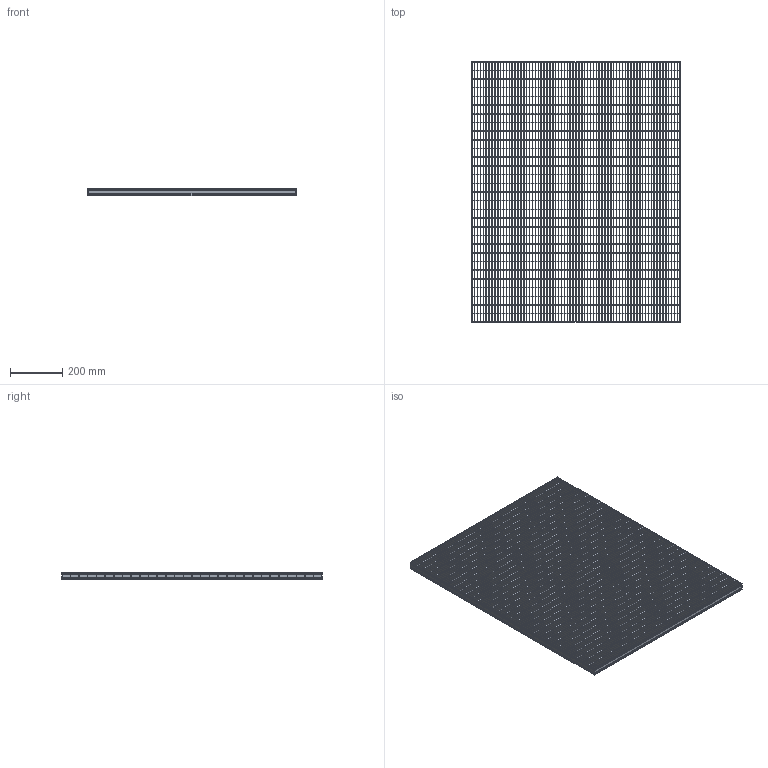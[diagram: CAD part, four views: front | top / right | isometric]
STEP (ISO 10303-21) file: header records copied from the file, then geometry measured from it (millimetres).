
FILE_DESCRIPTION(/* description */ ('STEP AP242','CAx-IF Rec.Pracs.---Representation and Presentation of Product Manufacturing Information (PMI)---4.0---2014-10-13','CAx-IF Rec.Pracs.---3D Tessellated Geometry---0.4---2014-09-14','2;1'),/* implementation_level */ '2;1');
FILE_NAME(/* name */ 'Lichtgitter_Pressure_locked_gratings P 230-33_11-2-1-1-800-1000_(350_0)',/* time_stamp */ '2026-04-23T10:12:04+02:00',/* author */ ('License CC BY-ND 4.0'),/* organization */ ('CADENAS'),/* preprocessor_version */ 'ST-DEVELOPER v20',/* originating_system */ 'PARTsolutions',/* authorisation */ ' ');
FILE_SCHEMA (('AP203_CONFIGURATION_CONTROLLED_3D_DESIGN_OF_MECHANICAL_PARTS_AND_ASSEMBLIES_MIM_LF { 1 0 10303 203 3 1 4 }','AP242_MANAGED_MODEL_BASED_3D_ENGINEERING_MIM_LF { 1 0 10303 442 1 1 4 }'));
Length unit declared in the file: millimetre
Products named in the file (5): Lichtgitter_Pressure_locked_gratings P 230-33/11-2-1-1-800-1000_(350_
0); Lichtgitter P 230-11.11/33-2_(Pressroste_350_1_1000_800)_VERTICAL; Lichtgitter P 230-11.11/33-2_(Pressroste_350_1_1000_800)_HORIZONTAL_C; Lichtgitter P 230-11.11/33-2_(Pressroste_350_1_1000_800)_HORIZONTAL; Lichtgitter P 230-11.11/33-2_(Pressroste_350_1_1000_800)_VERTICAL_C
Assembly tree (104 placements, depth 2):
  Lichtgitter_Pressure_locked_gratings P 230-33/11-2-1-1-800-1000_(350_
0)
    Lichtgitter P 230-11.11/33-2_(Pressroste_350_1_1000_800)_VERTICAL  x2
    Lichtgitter P 230-11.11/33-2_(Pressroste_350_1_1000_800)_HORIZONTAL_C  x29
    Lichtgitter P 230-11.11/33-2_(Pressroste_350_1_1000_800)_HORIZONTAL  x2
    Lichtgitter P 230-11.11/33-2_(Pressroste_350_1_1000_800)_VERTICAL_C  x71
Bounding box: 800 x 1000 x 30 mm (x, y, z)
Volume: 2962448.4 mm3; surface area: 3428686.9 mm2
Topology: 104 solids, 104 shells, 8908 faces, 26100 edges, 17400 vertices
Faces by surface type: plane 8876, cylinder 32
Entity records: 11727 total; most frequent: CARTESIAN_POINT 2057, ORIENTED_EDGE 1944, DIRECTION 1878, EDGE_CURVE 972, LINE 940, VECTOR 940, VERTEX_POINT 648, AXIS2_PLACEMENT_3D 469
